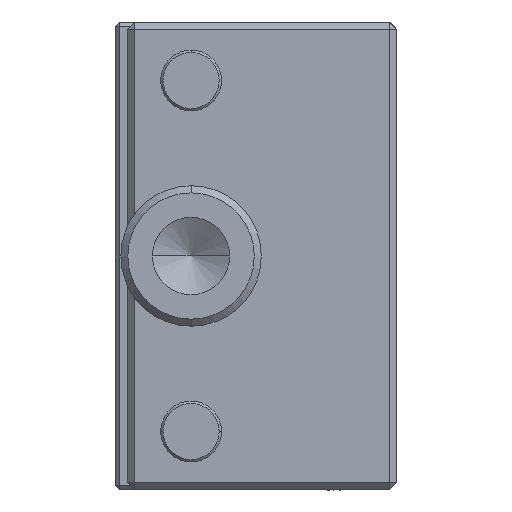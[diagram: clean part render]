
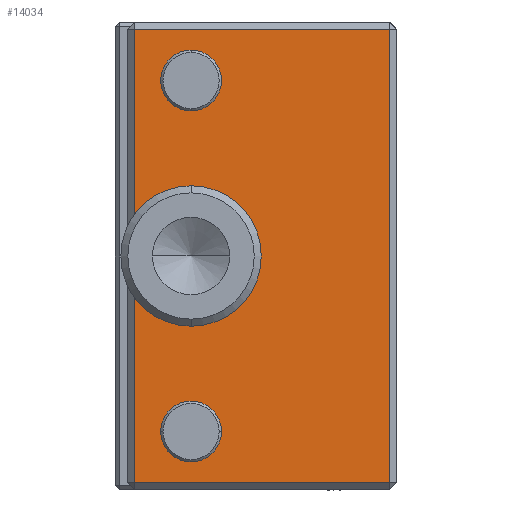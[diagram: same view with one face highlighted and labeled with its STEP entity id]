
A CAD part, left-side view. The second image highlights one B-rep face of the part: STEP entity #14034.
In plain terms, the highlighted planar face has unit normal (-1, 0, 0).
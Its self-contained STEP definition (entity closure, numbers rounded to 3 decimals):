
#114 = DIRECTION ( 'NONE',  ( 1., 0., 0. ) ) ;
#128 = VERTEX_POINT ( 'NONE', #21329 ) ;
#141 = ORIENTED_EDGE ( 'NONE', *, *, #21614, .F. ) ;
#1569 = DIRECTION ( 'NONE',  ( 0., -1., 0. ) ) ;
#1625 = LINE ( 'NONE', #4537, #5570 ) ;
#2221 = CARTESIAN_POINT ( 'NONE',  ( -118.342, -27.82, -7.5 ) ) ;
#2304 = EDGE_CURVE ( 'NONE', #14904, #13361, #22607, .T. ) ;
#2363 = CARTESIAN_POINT ( 'NONE',  ( -118.342, -27.82, 0. ) ) ;
#2668 = DIRECTION ( 'NONE',  ( -1., 0., 0. ) ) ;
#2672 = EDGE_CURVE ( 'NONE', #3084, #11615, #12917, .T. ) ;
#2735 = VERTEX_POINT ( 'NONE', #11107 ) ;
#3084 = VERTEX_POINT ( 'NONE', #13473 ) ;
#3122 = AXIS2_PLACEMENT_3D ( 'NONE', #6969, #14114, #22875 ) ;
#3248 = ORIENTED_EDGE ( 'NONE', *, *, #7177, .F. ) ;
#3717 = CARTESIAN_POINT ( 'NONE',  ( -118.342, -25.12, 10. ) ) ;
#4537 = CARTESIAN_POINT ( 'NONE',  ( -118.342, -25.42, 10. ) ) ;
#4684 = CARTESIAN_POINT ( 'NONE',  ( -118.342, -27.82, -7.5 ) ) ;
#4766 = CARTESIAN_POINT ( 'NONE',  ( -118.342, -27.82, 7.5 ) ) ;
#4838 = LINE ( 'NONE', #5774, #18407 ) ;
#5065 = PLANE ( 'NONE',  #12371 ) ;
#5518 = DIRECTION ( 'NONE',  ( 0., 0., -1. ) ) ;
#5570 = VECTOR ( 'NONE', #16913, 1000. ) ;
#5774 = CARTESIAN_POINT ( 'NONE',  ( -118.342, -25.12, -9.7 ) ) ;
#5952 = DIRECTION ( 'NONE',  ( 0., 0., 1. ) ) ;
#6345 = EDGE_LOOP ( 'NONE', ( #7305, #16369 ) ) ;
#6903 = AXIS2_PLACEMENT_3D ( 'NONE', #4766, #18775, #13643 ) ;
#6969 = CARTESIAN_POINT ( 'NONE',  ( -118.342, -27.82, 0. ) ) ;
#7145 = CIRCLE ( 'NONE', #6903, 1.3 ) ;
#7177 = EDGE_CURVE ( 'NONE', #128, #8212, #19138, .T. ) ;
#7305 = ORIENTED_EDGE ( 'NONE', *, *, #14701, .F. ) ;
#7677 = EDGE_CURVE ( 'NONE', #21395, #13100, #9976, .T. ) ;
#7756 = CIRCLE ( 'NONE', #19007, 2.7 ) ;
#8107 = ORIENTED_EDGE ( 'NONE', *, *, #18349, .F. ) ;
#8212 = VERTEX_POINT ( 'NONE', #9208 ) ;
#8668 = CARTESIAN_POINT ( 'NONE',  ( -118.342, -36.32, 10. ) ) ;
#8778 = DIRECTION ( 'NONE',  ( 0., 0., 1. ) ) ;
#9163 = ORIENTED_EDGE ( 'NONE', *, *, #9476, .F. ) ;
#9208 = CARTESIAN_POINT ( 'NONE',  ( -118.342, -36.32, -9.7 ) ) ;
#9250 = DIRECTION ( 'NONE',  ( 0., 1., 0. ) ) ;
#9476 = EDGE_CURVE ( 'NONE', #20758, #128, #18236, .T. ) ;
#9818 = FACE_BOUND ( 'NONE', #17950, .T. ) ;
#9976 = CIRCLE ( 'NONE', #3122, 2.7 ) ;
#10024 = EDGE_LOOP ( 'NONE', ( #15108, #14752, #12826, #3248, #9163, #141, #12384, #15333 ) ) ;
#10177 = EDGE_CURVE ( 'NONE', #2735, #12458, #7145, .T. ) ;
#10371 = DIRECTION ( 'NONE',  ( 0., 0., 1. ) ) ;
#10591 = CARTESIAN_POINT ( 'NONE',  ( -118.342, -25.42, 10. ) ) ;
#10606 = VERTEX_POINT ( 'NONE', #14794 ) ;
#10713 = VECTOR ( 'NONE', #1569, 1000. ) ;
#11107 = CARTESIAN_POINT ( 'NONE',  ( -118.342, -27.82, 6.2 ) ) ;
#11474 = FACE_OUTER_BOUND ( 'NONE', #10024, .T. ) ;
#11518 = CARTESIAN_POINT ( 'NONE',  ( -118.342, -25.42, 9.7 ) ) ;
#11615 = VERTEX_POINT ( 'NONE', #16385 ) ;
#11806 = AXIS2_PLACEMENT_3D ( 'NONE', #13947, #17543, #8778 ) ;
#12192 = CARTESIAN_POINT ( 'NONE',  ( -118.342, -25.12, 9.7 ) ) ;
#12371 = AXIS2_PLACEMENT_3D ( 'NONE', #3717, #114, #5518 ) ;
#12384 = ORIENTED_EDGE ( 'NONE', *, *, #22944, .F. ) ;
#12458 = VERTEX_POINT ( 'NONE', #22224 ) ;
#12550 = CIRCLE ( 'NONE', #11806, 1.3 ) ;
#12826 = ORIENTED_EDGE ( 'NONE', *, *, #19840, .F. ) ;
#12917 = CIRCLE ( 'NONE', #21911, 1.3 ) ;
#13100 = VERTEX_POINT ( 'NONE', #14939 ) ;
#13361 = VERTEX_POINT ( 'NONE', #21408 ) ;
#13473 = CARTESIAN_POINT ( 'NONE',  ( -118.342, -27.82, -8.8 ) ) ;
#13497 = EDGE_CURVE ( 'NONE', #13361, #21395, #18433, .T. ) ;
#13643 = DIRECTION ( 'NONE',  ( 0., 0., 1. ) ) ;
#13784 = DIRECTION ( 'NONE',  ( -1., 0., 0. ) ) ;
#13813 = CARTESIAN_POINT ( 'NONE',  ( -118.342, -27.82, -2.7 ) ) ;
#13947 = CARTESIAN_POINT ( 'NONE',  ( -118.342, -27.82, 7.5 ) ) ;
#14034 = ADVANCED_FACE ( 'NONE', ( #11474, #14516, #9818 ), #5065, .F. ) ;
#14114 = DIRECTION ( 'NONE',  ( -1., 0., 0. ) ) ;
#14356 = ORIENTED_EDGE ( 'NONE', *, *, #2672, .F. ) ;
#14516 = FACE_BOUND ( 'NONE', #6345, .T. ) ;
#14571 = VECTOR ( 'NONE', #10371, 1000. ) ;
#14615 = DIRECTION ( 'NONE',  ( -1., 0., 0. ) ) ;
#14701 = EDGE_CURVE ( 'NONE', #12458, #2735, #12550, .T. ) ;
#14752 = ORIENTED_EDGE ( 'NONE', *, *, #2304, .F. ) ;
#14794 = CARTESIAN_POINT ( 'NONE',  ( -118.342, -25.42, 1.237 ) ) ;
#14904 = VERTEX_POINT ( 'NONE', #18536 ) ;
#14939 = CARTESIAN_POINT ( 'NONE',  ( -118.342, -27.82, 2.7 ) ) ;
#15108 = ORIENTED_EDGE ( 'NONE', *, *, #13497, .F. ) ;
#15212 = AXIS2_PLACEMENT_3D ( 'NONE', #2363, #2668, #5952 ) ;
#15270 = VECTOR ( 'NONE', #19413, 1000. ) ;
#15333 = ORIENTED_EDGE ( 'NONE', *, *, #7677, .F. ) ;
#16369 = ORIENTED_EDGE ( 'NONE', *, *, #10177, .F. ) ;
#16385 = CARTESIAN_POINT ( 'NONE',  ( -118.342, -27.82, -6.2 ) ) ;
#16415 = DIRECTION ( 'NONE',  ( 0., 0., 1. ) ) ;
#16562 = DIRECTION ( 'NONE',  ( 0., 0., 1. ) ) ;
#16913 = DIRECTION ( 'NONE',  ( 0., 0., 1. ) ) ;
#17054 = DIRECTION ( 'NONE',  ( 0., 0., 1. ) ) ;
#17543 = DIRECTION ( 'NONE',  ( -1., 0., 0. ) ) ;
#17950 = EDGE_LOOP ( 'NONE', ( #8107, #14356 ) ) ;
#18236 = LINE ( 'NONE', #12192, #10713 ) ;
#18349 = EDGE_CURVE ( 'NONE', #11615, #3084, #18823, .T. ) ;
#18407 = VECTOR ( 'NONE', #9250, 1000. ) ;
#18433 = CIRCLE ( 'NONE', #15212, 2.7 ) ;
#18536 = CARTESIAN_POINT ( 'NONE',  ( -118.342, -25.42, -9.7 ) ) ;
#18639 = CARTESIAN_POINT ( 'NONE',  ( -118.342, -27.82, 0. ) ) ;
#18775 = DIRECTION ( 'NONE',  ( -1., 0., 0. ) ) ;
#18823 = CIRCLE ( 'NONE', #21469, 1.3 ) ;
#19007 = AXIS2_PLACEMENT_3D ( 'NONE', #18639, #21822, #16562 ) ;
#19138 = LINE ( 'NONE', #8668, #15270 ) ;
#19413 = DIRECTION ( 'NONE',  ( 0., 0., -1. ) ) ;
#19840 = EDGE_CURVE ( 'NONE', #8212, #14904, #4838, .T. ) ;
#20758 = VERTEX_POINT ( 'NONE', #11518 ) ;
#21329 = CARTESIAN_POINT ( 'NONE',  ( -118.342, -36.32, 9.7 ) ) ;
#21395 = VERTEX_POINT ( 'NONE', #13813 ) ;
#21408 = CARTESIAN_POINT ( 'NONE',  ( -118.342, -25.42, -1.237 ) ) ;
#21469 = AXIS2_PLACEMENT_3D ( 'NONE', #4684, #13784, #17054 ) ;
#21614 = EDGE_CURVE ( 'NONE', #10606, #20758, #1625, .T. ) ;
#21822 = DIRECTION ( 'NONE',  ( -1., 0., 0. ) ) ;
#21911 = AXIS2_PLACEMENT_3D ( 'NONE', #2221, #14615, #16415 ) ;
#22224 = CARTESIAN_POINT ( 'NONE',  ( -118.342, -27.82, 8.8 ) ) ;
#22607 = LINE ( 'NONE', #10591, #14571 ) ;
#22875 = DIRECTION ( 'NONE',  ( 0., 0., 1. ) ) ;
#22944 = EDGE_CURVE ( 'NONE', #13100, #10606, #7756, .T. ) ;
